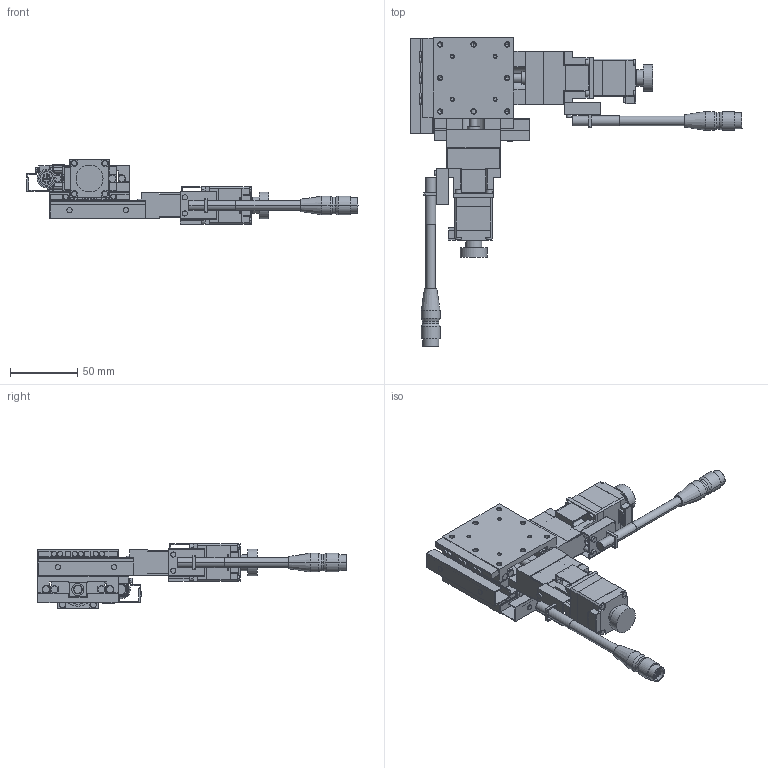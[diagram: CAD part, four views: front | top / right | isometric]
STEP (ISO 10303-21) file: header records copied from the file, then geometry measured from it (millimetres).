
FILE_DESCRIPTION(('STEP AP203'),'1');
FILE_NAME('C:/3D-Trans/3D_PMG615T-R□-C4+240122.step','2024-02-27T00:25:10',(' '),(' '),'Spatial InterOp 3D',' ',' ');
FILE_SCHEMA(('CONFIG_CONTROL_DESIGN'));
Length unit declared in the file: millimetre
Products named in the file (12): 1; 2; 3; 4; 5; 6; 7; 8; 9; 10; 11; 12
Bounding box: 247.4 x 230 x 48 mm (x, y, z)
Volume: 238508.6 mm3; surface area: 117774.9 mm2
Topology: 12 solids, 12 shells, 1462 faces, 3674 edges, 2338 vertices
Faces by surface type: plane 844, cylinder 476, cone 140, extrusion 2
Entity records: 44548 total; most frequent: CARTESIAN_POINT 8090, DIRECTION 7678, ORIENTED_EDGE 7268, EDGE_CURVE 3634, AXIS2_PLACEMENT_3D 2598, VECTOR 2482, LINE 2480, VERTEX_POINT 2338
